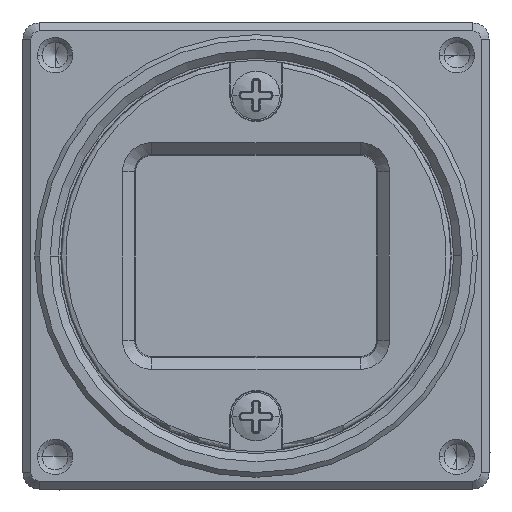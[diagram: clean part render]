
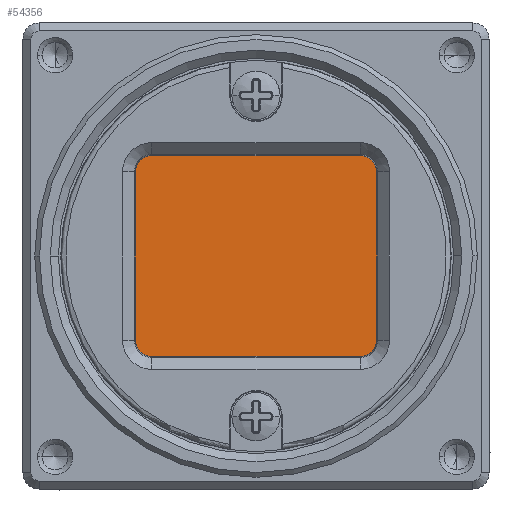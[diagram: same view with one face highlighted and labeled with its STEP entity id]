
A CAD part, left-side view. The second image highlights one B-rep face of the part: STEP entity #54356.
In plain terms, the highlighted planar face has unit normal (-1, 0, 0).
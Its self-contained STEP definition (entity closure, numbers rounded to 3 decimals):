
#8379=DIRECTION('',(0.,0.,-1.));
#8380=VECTOR('',#8379,15.);
#8381=CARTESIAN_POINT('',(-10.3,8.75,7.5));
#8382=LINE('',#8381,#8380);
#8395=DIRECTION('',(0.,1.,0.));
#8396=VECTOR('',#8395,17.5);
#8397=CARTESIAN_POINT('',(-10.3,-8.75,7.5));
#8398=LINE('',#8397,#8396);
#8407=DIRECTION('',(0.,0.,1.));
#8408=VECTOR('',#8407,15.);
#8409=CARTESIAN_POINT('',(-10.3,-8.75,-7.5));
#8410=LINE('',#8409,#8408);
#8415=DIRECTION('',(0.,-1.,0.));
#8416=VECTOR('',#8415,17.5);
#8417=CARTESIAN_POINT('',(-10.3,8.75,-7.5));
#8418=LINE('',#8417,#8416);
#36267=CARTESIAN_POINT('',(-10.3,8.75,7.5));
#36268=VERTEX_POINT('',#36267);
#36269=CARTESIAN_POINT('',(-10.3,8.75,-7.5));
#36270=VERTEX_POINT('',#36269);
#36271=CARTESIAN_POINT('',(-10.3,-8.75,7.5));
#36272=VERTEX_POINT('',#36271);
#36273=CARTESIAN_POINT('',(-10.3,-8.75,-7.5));
#36274=VERTEX_POINT('',#36273);
#54345=CARTESIAN_POINT('',(-10.3,0.,0.));
#54346=DIRECTION('',(1.,0.,0.));
#54347=DIRECTION('',(0.,-1.,0.));
#54348=AXIS2_PLACEMENT_3D('',#54345,#54346,#54347);
#54349=PLANE('',#54348);
#54350=ORIENTED_EDGE('',*,*,#54297,.F.);
#54351=ORIENTED_EDGE('',*,*,#54312,.F.);
#54352=ORIENTED_EDGE('',*,*,#54326,.F.);
#54353=ORIENTED_EDGE('',*,*,#54339,.F.);
#54354=EDGE_LOOP('',(#54350,#54351,#54352,#54353));
#54355=FACE_OUTER_BOUND('',#54354,.F.);
#54356=ADVANCED_FACE('',(#54355),#54349,.F.);
#54297=EDGE_CURVE('',#36268,#36270,#8382,.T.);
#54312=EDGE_CURVE('',#36272,#36268,#8398,.T.);
#54326=EDGE_CURVE('',#36274,#36272,#8410,.T.);
#54339=EDGE_CURVE('',#36270,#36274,#8418,.T.);
